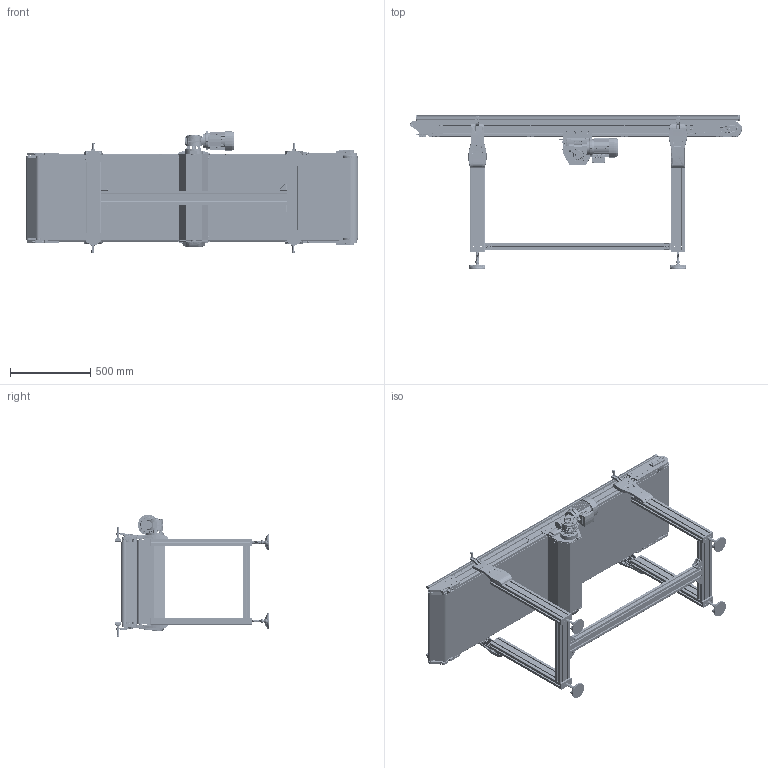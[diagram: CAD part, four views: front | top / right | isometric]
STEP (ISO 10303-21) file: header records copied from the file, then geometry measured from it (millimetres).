
FILE_DESCRIPTION (( 'STEP AP203' ), '1' );
FILE_NAME ('NASTRO_RETTILINEO_TAPPETO.step', '2026-06-04T07:10:22', ( 'Utente Windows' ), ( '' ), 'SwSTEP 2.0', 'SolidWorks 2024', '' );
FILE_SCHEMA (( 'CONFIG_CONTROL_DESIGN' ));
Length unit declared in the file: millimetre
Products named in the file (93): VITI TE UNI 5739_M8x12 UNI 5739; 12UNI7435; 084.711.006_PER CAVA 8 PERNO ALTO 1; BLOCCO_RINVIO_95_PENNA_SX; BLOCCO_PERNO_95_RINVIO; BLOCCO_RINVIO_95_STANDARD_CON TENDINASTRO E CARTER; PIEDE_95; VITI TE UNI 5739_M6x16 UNI 5739; 084.711.006_L1; VITE_DADO_M5X12; 084.302.000 DADI ALUSIC 13x13_084.302.015; 084.712.002; PERNO_SUP_95_PENNA; 2010.000.073; ANGOLARE_43; VITI TSEI UNI 5933_M6x12 UNI 5933; BLOCCO_TRAINO_50-95_CENTRALE; BLOCCO_RINVIO_95_PENNA_DX; RULLO_95_PENNA; VITI TSEI UNI 5933_M8x30 UNI 5933; VITI TE UNI 5739_M6x12 UNI 5739; BLOCCO_TRAINO_50-95_CENTRALE_44; CHIAVETTE_A 8x7x20 UNI 6604-69; 084.711.005; LAMIERA_1_PENNA; 084.302.060; 084.302.000 DADI ALUSIC 13x13-1_084.302.007; 084.711.010; VITE_DADO_M6X12; TELAIO_95_STANDARD_Default<A macchina>; 084.302.000 DADI ALUSIC 13x13-1_084.302.004; BLOCCO_PERNO_50_CENTRALE_44; PERNO_TENSIONAMENTO_50-95_CENTRALE; 084.808.002_084.808.002; VITI TE UNI 5739_M6x70 UNI 5739; 084.305.003-1; 084.302.017; 30UNI7435; 2010.000.072_L_Default<A macchina>; 084.802.004-1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
Assembly tree (266 placements, depth 4):
  NASTRO_RETTILINEO_TAPPETO
    TAPPETO_CENTRALE_1PENNA
    TELAIO_95_STANDARD_Default<A macchina>
    LAMIERA_1_PENNA
    RULLO_95_Default<A macchina>  x2
    BLOCCO_PERNO_95_RINVIO  x3
      084.812.003
      084.810.003
      30UNI7435
    BLOCCO_RINVIO_95_STANDARD_CON TENDINASTRO E CARTER  x2
      084.808.002_084.808.002
      084.803.003
      084.302.060
      084.802.019_084.802.019
      VITI TSEI UNI 5933_M4x12 UNI 5933
      084.302.000 DADI ALUSIC 13x13-1_084.302.004
      084.301.000 VITI ALUSIC_084.301.003
      084.802.071
    RULLO_95_PENNA  x2
    BLOCCO_RINVIO_95_PENNA_SX
      456.015.101_456.015.101 SX
      084.802.036  x2
      084.301.000 VITI ALUSIC_084.301.003  x4
      VITI TE UNI 5739_M6x70 UNI 5739
      VITI TSEI UNI 5933_M8x30 UNI 5933
      084.302.016  x2
      12UNI7435  x2
    BLOCCO_RINVIO_95_PENNA_DX
      456.015.101_456.015.101 DX
      084.802.036  x2
      084.301.000 VITI ALUSIC_084.301.003  x4
      VITI TE UNI 5739_M6x70 UNI 5739
      VITI TSEI UNI 5933_M8x30 UNI 5933
      084.302.016  x2
      12UNI7435  x2
    PERNO_SUP_95_PENNA
    PERNO_INF_95_PENNA
    BLOCCO_TRAINO_50-95_CENTRALE_44
      084.802.010
      084.802.021
      084.802.004-1  x2
      084.802.003
      VITI TSEI UNI 5933_M8x20 UNI 5933  x4
      084.302.017
      VITI TE UNI 5739_M6x50 UNI 5739  x2
      DADI ESAGONALI NORMALI UNI 5588_M6 UNI 5588  x2
      VITI TE UNI 5739_M6x16 UNI 5739  x2
      RONDELLE UNI 6592_6.4x12.5 UNI 6592  x2
      VITI TSEI UNI 5933_M6x12 UNI 5933  x4
      VITI TSEI UNI 5933_M8x16 UNI 5933  x3
      VITI TE UNI 5739_M8x20 UNI 5739  x4
      084.802.070
    BLOCCO_TRAINO_50-95_CENTRALE
      084.802.004-1  x2
      084.802.020
      084.802.003
      VITI TSEI UNI 5933_M8x20 UNI 5933  x4
      VITI TSEI UNI 5933_M6x12 UNI 5933  x6
      RONDELLE UNI 6592_8.4x17 UNI 6592  x2
      VITI TE UNI 5739_M8x12 UNI 5739  x2
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Bounding box: 2067.5 x 960.5 x 757.83 mm (x, y, z)
Volume: 29876995.5 mm3; surface area: 20713247.3 mm2
Topology: 420 solids, 433 shells, 18918 faces, 48616 edges, 30888 vertices
Faces by surface type: plane 7840, cylinder 5679, bspline 2175, cone 1885, torus 1192, sphere 147
Entity records: 317995 total; most frequent: CARTESIAN_POINT 123195, ORIENTED_EDGE 40064, DIRECTION 34637, EDGE_CURVE 20032, VERTEX_POINT 12849, AXIS2_PLACEMENT_3D 12126, LINE 10385, VECTOR 10385
